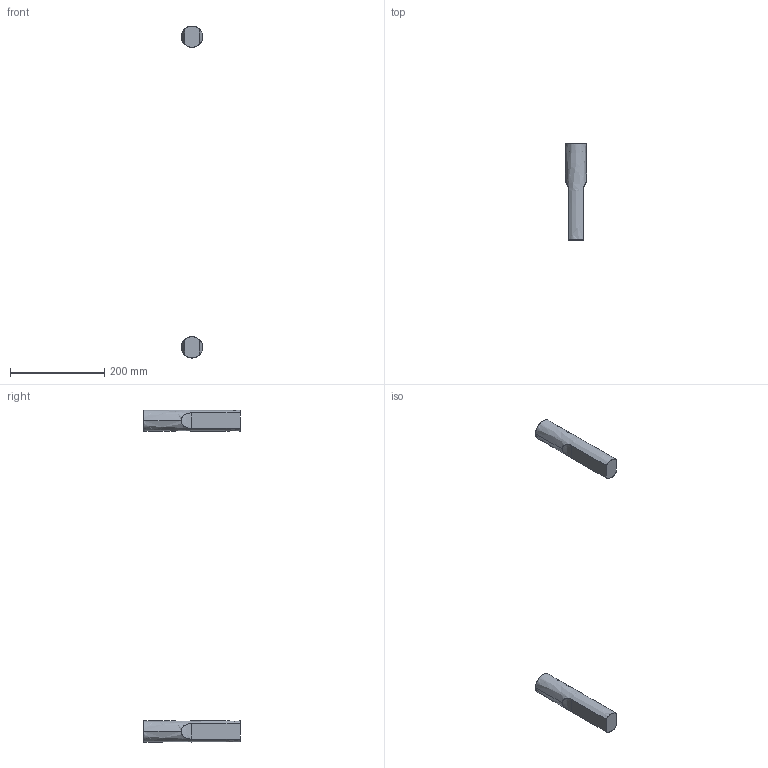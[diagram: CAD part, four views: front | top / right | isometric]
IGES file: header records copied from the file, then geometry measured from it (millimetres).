
Start section: SolidWorks IGES file using analytic representation for surfaces
Global section: file name: \\Logicserver\datos\01-VICCARBE\PRODUCTOS\53-SISTEMA\04-MODELADOS (PLANOS)\WEB\viccarbe-sistema-3D\IGS\Patas flauta.IGS; native system: SolidWorks 2013; preprocessor: SolidWorks 2013; author: bdisenyo; date: 170125.090259; units: millimetre
Bounding box: 45 x 205 x 705 mm (x, y, z)
Surface area: 62010.5 mm2 (no closed solid volume)
Topology: 0 solids, 0 shells, 16 faces, 456 edges, 456 vertices
Faces by surface type: revolution 8, bspline 8
